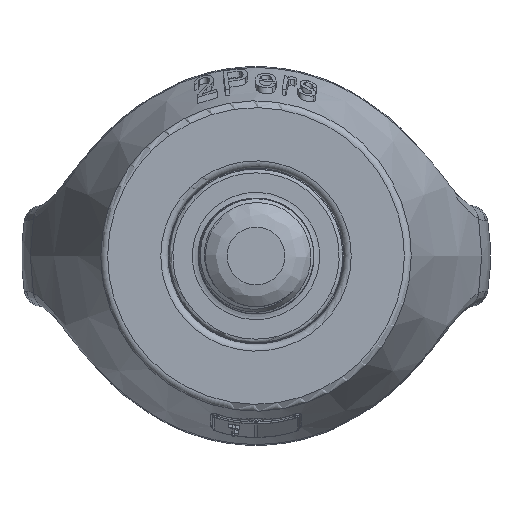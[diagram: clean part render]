
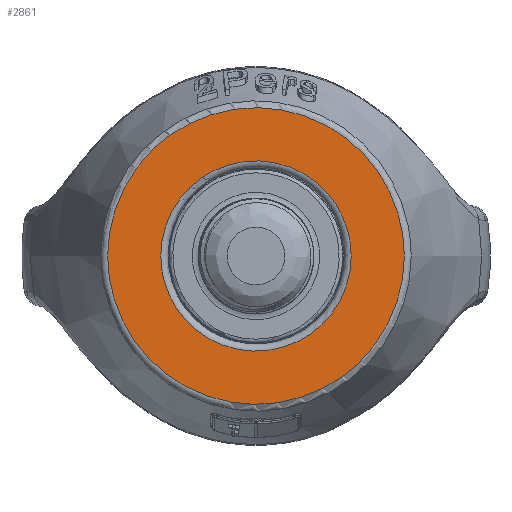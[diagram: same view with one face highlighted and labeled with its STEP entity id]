
A CAD part, front view. The second image highlights one B-rep face of the part: STEP entity #2861.
In plain terms, the highlighted planar face has unit normal (0, -1, 0).
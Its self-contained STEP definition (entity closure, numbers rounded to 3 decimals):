
#312=FACE_BOUND('',#5144,.T.);
#313=FACE_BOUND('',#5145,.T.);
#2861=ADVANCED_FACE('*FAC3019',(#312,#313),#3345,.T.);
#3345=PLANE('',#23783);
#5144=EDGE_LOOP('',(#11835,#11836));
#5145=EDGE_LOOP('',(#11837,#11838));
#11835=ORIENTED_EDGE('',*,*,#19703,.T.);
#11836=ORIENTED_EDGE('',*,*,#19702,.T.);
#11837=ORIENTED_EDGE('',*,*,#19910,.F.);
#11838=ORIENTED_EDGE('',*,*,#19911,.F.);
#15849=VERTEX_POINT('',#54620);
#15850=VERTEX_POINT('',#54621);
#16042=VERTEX_POINT('',#56537);
#16043=VERTEX_POINT('',#56538);
#19702=EDGE_CURVE('',#15849,#15850,#22969,.T.);
#19703=EDGE_CURVE('',#15850,#15849,#22970,.T.);
#19910=EDGE_CURVE('',#16042,#16043,#23035,.T.);
#19911=EDGE_CURVE('',#16043,#16042,#23036,.T.);
#22969=B_SPLINE_CURVE_WITH_KNOTS('',3,(#54610,#54611,#54612,#54613,#54614,
#54615,#54616,#54617,#54618,#54619),.UNSPECIFIED.,.F.,.F.,(4,2,2,2,4),(0.,
0.25,0.5,0.75,1.),.UNSPECIFIED.);
#22970=B_SPLINE_CURVE_WITH_KNOTS('',3,(#54622,#54623,#54624,#54625,#54626,
#54627,#54628,#54629,#54630,#54631),.UNSPECIFIED.,.F.,.F.,(4,2,2,2,4),(0.,
0.25,0.5,0.75,1.),.UNSPECIFIED.);
#23035=B_SPLINE_CURVE_WITH_KNOTS('',3,(#56527,#56528,#56529,#56530,#56531,
#56532,#56533,#56534,#56535,#56536),.UNSPECIFIED.,.F.,.F.,(4,2,2,2,4),(0.,
0.25,0.5,0.75,1.),.UNSPECIFIED.);
#23036=B_SPLINE_CURVE_WITH_KNOTS('',3,(#56539,#56540,#56541,#56542,#56543,
#56544,#56545,#56546,#56547,#56548),.UNSPECIFIED.,.F.,.F.,(4,2,2,2,4),(0.,
0.25,0.5,0.75,1.),.UNSPECIFIED.);
#23783=AXIS2_PLACEMENT_3D('',#56549,#24636,#24637);
#24636=DIRECTION('',(0.,-1.,0.));
#24637=DIRECTION('',(-1.,0.,0.));
#54610=CARTESIAN_POINT('',(13.15,-35.75,0.));
#54611=CARTESIAN_POINT('',(13.15,-35.75,-3.453));
#54612=CARTESIAN_POINT('',(11.739,-35.75,-6.857));
#54613=CARTESIAN_POINT('',(6.857,-35.75,-11.74));
#54614=CARTESIAN_POINT('',(3.452,-35.75,-13.15));
#54615=CARTESIAN_POINT('',(-3.452,-35.75,-13.15));
#54616=CARTESIAN_POINT('',(-6.857,-35.75,-11.739));
#54617=CARTESIAN_POINT('',(-11.74,-35.75,-6.857));
#54618=CARTESIAN_POINT('',(-13.15,-35.75,-3.455));
#54619=CARTESIAN_POINT('',(-13.15,-35.75,0.));
#54620=CARTESIAN_POINT('',(13.15,-35.75,0.));
#54621=CARTESIAN_POINT('',(-13.15,-35.75,0.));
#54622=CARTESIAN_POINT('',(-13.15,-35.75,0.));
#54623=CARTESIAN_POINT('',(-13.15,-35.75,3.453));
#54624=CARTESIAN_POINT('',(-11.739,-35.75,6.857));
#54625=CARTESIAN_POINT('',(-6.857,-35.75,11.74));
#54626=CARTESIAN_POINT('',(-3.452,-35.75,13.15));
#54627=CARTESIAN_POINT('',(3.452,-35.75,13.15));
#54628=CARTESIAN_POINT('',(6.857,-35.75,11.739));
#54629=CARTESIAN_POINT('',(11.74,-35.75,6.857));
#54630=CARTESIAN_POINT('',(13.15,-35.75,3.455));
#54631=CARTESIAN_POINT('',(13.15,-35.75,0.));
#56527=CARTESIAN_POINT('',(20.495,-35.75,0.));
#56528=CARTESIAN_POINT('',(20.495,-35.75,-5.366));
#56529=CARTESIAN_POINT('',(18.286,-35.75,-10.698));
#56530=CARTESIAN_POINT('',(10.698,-35.75,-18.286));
#56531=CARTESIAN_POINT('',(5.366,-35.75,-20.495));
#56532=CARTESIAN_POINT('',(-5.366,-35.75,-20.495));
#56533=CARTESIAN_POINT('',(-10.698,-35.75,-18.286));
#56534=CARTESIAN_POINT('',(-18.286,-35.75,-10.698));
#56535=CARTESIAN_POINT('',(-20.495,-35.75,-5.366));
#56536=CARTESIAN_POINT('',(-20.495,-35.75,0.));
#56537=CARTESIAN_POINT('',(20.495,-35.75,0.));
#56538=CARTESIAN_POINT('',(-20.495,-35.75,0.));
#56539=CARTESIAN_POINT('',(-20.495,-35.75,0.));
#56540=CARTESIAN_POINT('',(-20.495,-35.75,5.366));
#56541=CARTESIAN_POINT('',(-18.286,-35.75,10.698));
#56542=CARTESIAN_POINT('',(-10.698,-35.75,18.286));
#56543=CARTESIAN_POINT('',(-5.366,-35.75,20.495));
#56544=CARTESIAN_POINT('',(5.366,-35.75,20.495));
#56545=CARTESIAN_POINT('',(10.698,-35.75,18.286));
#56546=CARTESIAN_POINT('',(18.286,-35.75,10.698));
#56547=CARTESIAN_POINT('',(20.495,-35.75,5.366));
#56548=CARTESIAN_POINT('',(20.495,-35.75,0.));
#56549=CARTESIAN_POINT('',(20.741,-35.75,20.741));
